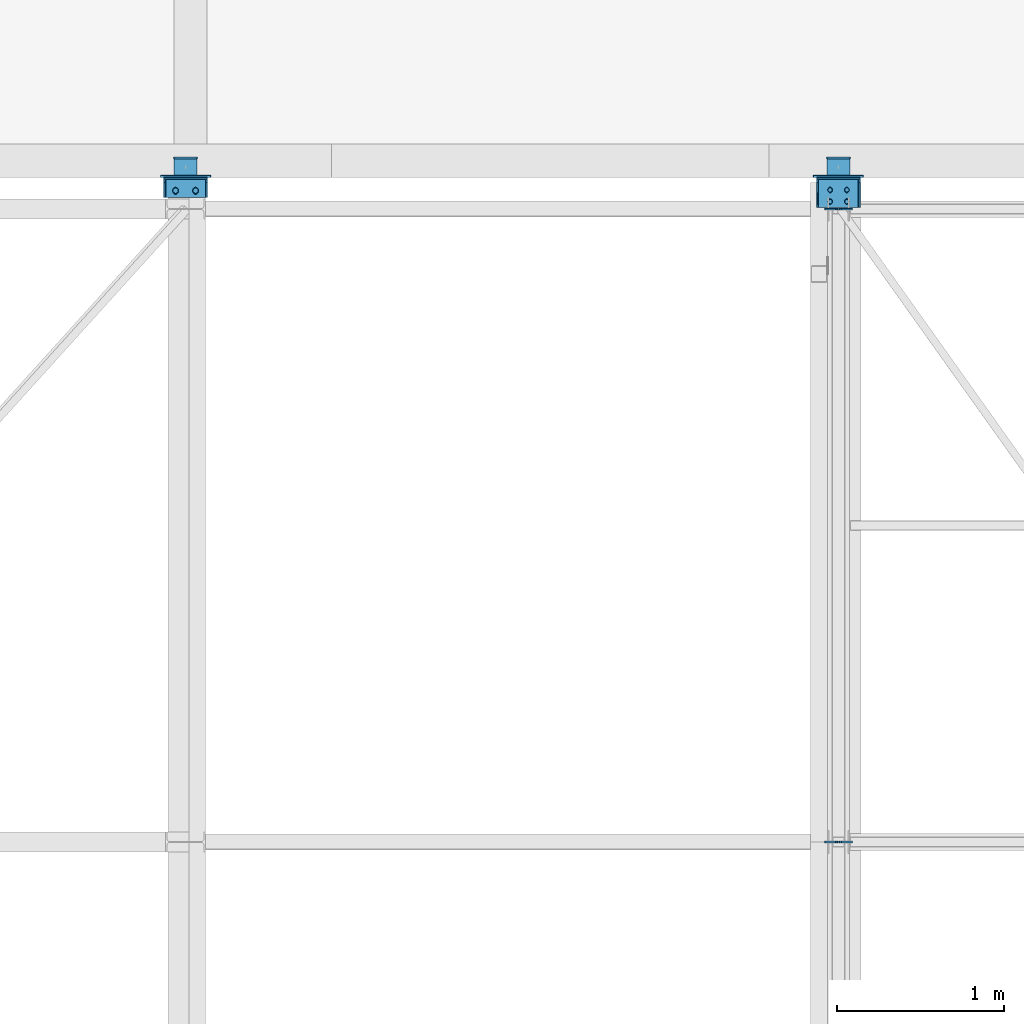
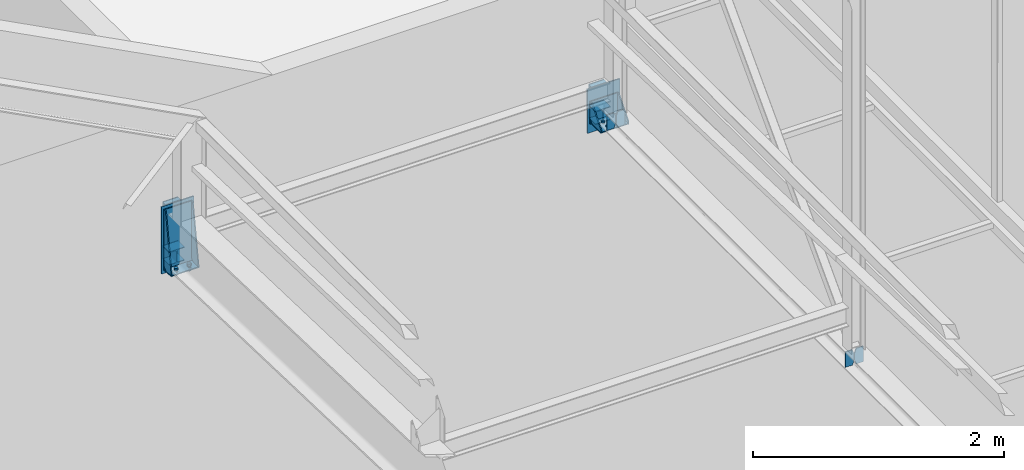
# One storey, part 83 of 123: 22 discrete accessories, 2 mechanical fasteners, 5 elements without a shape of their own.
"""IFC2X3 building model written with IfcOpenShell, lengths in millimetres."""

from ifc_helpers import new_model, si_unit, frame, frame_2d, origin_with_axes, origin_2d_with_axis, place, context, subcontext, project, spatial, polyline, circle_curve, parameter, trimmed, segment, composite_curve, circle, i_section, outline, extrude, source, transform, mapped, material, type_object, element, aggregate, save


model = new_model("IFC2X3")

# Units and contexts
model_context = context("Model", 3, precision=1e-05, world=origin_with_axes())
body_context = subcontext(model_context, "Body", "Model", "MODEL_VIEW")
ifc_project = project(units=[si_unit("LENGTHUNIT", "METRE", prefix="MILLI"), si_unit("AREAUNIT", "SQUARE_METRE"), si_unit("VOLUMEUNIT", "CUBIC_METRE"), si_unit("MASSUNIT", "GRAM", prefix="KILO"), si_unit("TIMEUNIT", "SECOND"), si_unit("PLANEANGLEUNIT", "RADIAN"), si_unit("SOLIDANGLEUNIT", "STERADIAN"), si_unit("THERMODYNAMICTEMPERATUREUNIT", "DEGREE_CELSIUS"), si_unit("LUMINOUSINTENSITYUNIT", "LUMEN")], contexts=[model_context])

# Site, building, storey
site_placement = place(None, origin_with_axes())
site = spatial("IfcSite", under=ifc_project, at=site_placement, Name="Undefined", CompositionType="ELEMENT")
building_placement = place(site_placement, origin_with_axes())
building = spatial("IfcBuilding", under=site, at=building_placement, Name="Undefined", CompositionType="ELEMENT")
storey_placement = place(building_placement, origin_with_axes())
storey = spatial("IfcBuildingStorey", under=building, at=storey_placement, Name="Undefined", CompositionType="ELEMENT", Elevation=0.0)

# Assembly, discrete accessories
assembly_1_placement = place(storey_placement, origin_with_axes())
assembly_1 = element("IfcElementAssembly", 1, at=assembly_1_placement, inside=storey, Name="Steel Assembly", AssemblyPlace="NOTDEFINED", PredefinedType="RIGID_FRAME")
ifc_material_1 = material(Name="STEEL/S235-E24")
discrete_accessory_type_1 = type_object("IfcDiscreteAccessoryType", Name="RAIDISSEUR")
discrete_accessory_1_placement = place(assembly_1_placement, frame((23552.9999999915, 11400.0000000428, 7089.5), z_axis=(0.0, 1.0, 0.0), x_axis=(-1.0, 0.0, 0.0)))
discrete_accessory_1 = element("IfcDiscreteAccessory", 2, at=discrete_accessory_1_placement, type_object=discrete_accessory_type_1, material=ifc_material_1, Name="RAIDISSEUR", ObjectType="TOLE10*80", context=body_context, shape_type="SweptSolid", body=[
    extrude(outline(polyline([(0.0, 0.0), (65.0, 0.0), (80.0, 40.0), (80.0, 110.0), (65.0, 150.0), (0.0, 150.0), (0.0, 0.0)])), frame((0.0, 0.0, -5.0), z_axis=(0.0, 0.0, 1.0), x_axis=(1.0, 0.0, 0.0)), (0.0, 0.0, 1.0), 10.0),
])
discrete_accessory_2_placement = place(assembly_1_placement, frame((23466.9999999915, 11400.0000000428, 7089.5), z_axis=(0.0, 1.0, 0.0), x_axis=(-1.0, 0.0, 0.0)))
discrete_accessory_2 = element("IfcDiscreteAccessory", 3, at=discrete_accessory_2_placement, type_object=discrete_accessory_type_1, material=ifc_material_1, Name="RAIDISSEUR", ObjectType="TOLE10*80", context=body_context, shape_type="SweptSolid", body=[
    extrude(outline(polyline([(0.0, 40.0), (15.0, 0.0), (80.0, 0.0), (80.0, 150.0), (15.0, 150.0), (0.0, 110.0), (0.0, 40.0)])), frame((0.0, 0.0, -5.0), z_axis=(0.0, 0.0, 1.0), x_axis=(1.0, 0.0, 0.0)), (0.0, 0.0, 1.0), 10.0),
])
discrete_accessory_3_placement = place(assembly_1_placement, frame((23552.9999999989, 15200.0000000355, 7089.5), z_axis=(0.0, 1.0, 0.0), x_axis=(-1.0, 0.0, 0.0)))
discrete_accessory_3 = element("IfcDiscreteAccessory", 4, at=discrete_accessory_3_placement, type_object=discrete_accessory_type_1, material=ifc_material_1, Name="RAIDISSEUR", ObjectType="TOLE10*80", context=body_context, shape_type="SweptSolid", body=[
    extrude(outline(polyline([(0.0, 0.0), (65.0, 0.0), (80.0, 40.0), (80.0, 110.0), (65.0, 150.0), (0.0, 150.0), (0.0, 0.0)])), frame((0.0, 0.0, -5.0), z_axis=(0.0, 0.0, 1.0), x_axis=(1.0, 0.0, 0.0)), (0.0, 0.0, 1.0), 10.0),
])
discrete_accessory_4_placement = place(assembly_1_placement, frame((23466.9999999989, 15200.0000000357, 7089.5), z_axis=(0.0, 1.0, 0.0), x_axis=(-1.0, 0.0, 0.0)))
discrete_accessory_4 = element("IfcDiscreteAccessory", 5, at=discrete_accessory_4_placement, type_object=discrete_accessory_type_1, material=ifc_material_1, Name="RAIDISSEUR", ObjectType="TOLE10*80", context=body_context, shape_type="SweptSolid", body=[
    extrude(outline(polyline([(0.0, 40.0), (15.0, 0.0), (80.0, 0.0), (80.0, 150.0), (15.0, 150.0), (0.0, 110.0), (0.0, 40.0)])), frame((0.0, 0.0, -5.0), z_axis=(0.0, 0.0, 1.0), x_axis=(1.0, 0.0, 0.0)), (0.0, 0.0, 1.0), 10.0),
])
aggregate(assembly_1, [discrete_accessory_1, discrete_accessory_2, discrete_accessory_3, discrete_accessory_4])

assembly_2_placement = place(storey_placement, origin_with_axes())
assembly_2 = element("IfcElementAssembly", 6, at=assembly_2_placement, inside=storey, Name="Steel Assembly", AssemblyPlace="NOTDEFINED", PredefinedType="RIGID_FRAME")
discrete_accessory_5_placement = place(assembly_2_placement, frame((23344.9999999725, 15210.0000005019, 7079.00000068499), z_axis=(-1.0, 0.0, 0.0), x_axis=(0.0, 0.0, 1.0)))
discrete_accessory_5 = element("IfcDiscreteAccessory", 7, at=discrete_accessory_5_placement, type_object=discrete_accessory_type_1, material=ifc_material_1, Name="RAIDISSEUR", ObjectType="PL10*170", context=body_context, shape_type="SweptSolid", body=[
    extrude(outline(polyline([(0.0, 0.0), (19.999999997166, 0.0), (194.999206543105, 150.000000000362), (194.999145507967, 170.000000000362), (29.9999970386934, 170.00000000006), (-2.43872305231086e-06, 140.000000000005), (0.0, 0.0)])), frame((0.0, 0.0, -5.0), z_axis=(0.0, 0.0, 1.0), x_axis=(1.0, 0.0, 0.0)), (0.0, 0.0, 1.0), 10.0),
])
discrete_accessory_6_placement = place(assembly_2_placement, frame((23594.9999999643, 15210.000000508, 7079.000000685), z_axis=(-1.0, 0.0, 0.0), x_axis=(0.0, 0.0, 1.0)))
discrete_accessory_6 = element("IfcDiscreteAccessory", 8, at=discrete_accessory_6_placement, type_object=discrete_accessory_type_1, material=ifc_material_1, Name="RAIDISSEUR", ObjectType="PL10*170", context=body_context, shape_type="SweptSolid", body=[
    extrude(outline(polyline([(0.0, 0.0), (19.999999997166, 0.0), (194.999206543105, 150.000000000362), (194.999145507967, 170.000000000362), (29.9999970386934, 170.00000000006), (-2.43872305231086e-06, 140.000000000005), (0.0, 0.0)])), frame((0.0, 0.0, -5.0), z_axis=(0.0, 0.0, 1.0), x_axis=(1.0, 0.0, 0.0)), (0.0, 0.0, 1.0), 10.0),
])

assembly_3_placement = place(storey_placement, origin_with_axes())
assembly_3 = element("IfcElementAssembly", 9, at=assembly_3_placement, inside=storey, Name="Steel Assembly", AssemblyPlace="NOTDEFINED", PredefinedType="RIGID_FRAME")
discrete_accessory_7_placement = place(assembly_3_placement, frame((19425.0000000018, 15270.042093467, 7019.84807001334), z_axis=(-1.0, 0.0, 0.0), x_axis=(0.0, 0.0314107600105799, 0.999506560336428)))
discrete_accessory_7 = element("IfcDiscreteAccessory", 10, at=discrete_accessory_7_placement, type_object=discrete_accessory_type_1, material=ifc_material_1, Name="RAIDISSEUR", ObjectType="PL10*110", context=body_context, shape_type="SweptSolid", body=[
    extrude(outline(polyline([(0.0, 0.0), (19.999999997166, 0.0), (576.501708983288, 71.8850250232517), (577.129882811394, 91.8751525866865), (29.9851968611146, 109.069868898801), (3.87804813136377e-08, 80.012191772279), (0.0, 0.0)])), frame((0.0, 0.0, -5.0), z_axis=(0.0, 0.0, 1.0), x_axis=(1.0, 0.0, 0.0)), (0.0, 0.0, 1.0), 10.0),
])
discrete_accessory_8_placement = place(assembly_3_placement, frame((19674.9999999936, 15270.042093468, 7019.84807001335), z_axis=(-1.0, 0.0, 0.0), x_axis=(0.0, 0.0314107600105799, 0.999506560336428)))
discrete_accessory_8 = element("IfcDiscreteAccessory", 11, at=discrete_accessory_8_placement, type_object=discrete_accessory_type_1, material=ifc_material_1, Name="RAIDISSEUR", ObjectType="PL10*110", context=body_context, shape_type="SweptSolid", body=[
    extrude(outline(polyline([(0.0, 0.0), (19.999999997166, 0.0), (576.501708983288, 71.8850250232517), (577.129882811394, 91.8751525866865), (29.9851968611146, 109.069868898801), (3.87804813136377e-08, 80.012191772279), (0.0, 0.0)])), frame((0.0, 0.0, -5.0), z_axis=(0.0, 0.0, 1.0), x_axis=(1.0, 0.0, 0.0)), (0.0, 0.0, 1.0), 10.0),
])

# Discrete accessory
discrete_accessory_type_2 = type_object("IfcDiscreteAccessoryType", Name="SABOT")
discrete_accessory_9_placement = place(assembly_2_placement, frame((23469.999999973, 15380.0000001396, 7074.00000068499), z_axis=(0.0, 0.0, -1.0), x_axis=(0.0, -1.0, 0.0)))
discrete_accessory_9 = element("IfcDiscreteAccessory", 12, at=discrete_accessory_9_placement, type_object=discrete_accessory_type_2, material=ifc_material_1, Name="SABOT", ObjectType="PL10*260", context=body_context, shape_type="SweptSolid", body=[
    extrude(outline(polyline([(169.99999962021, 130.0), (169.99999962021, -130.0), (0.0, -130.0), (0.0, 130.0), (169.99999962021, 130.0)])), frame((0.0, 0.0, -5.0), z_axis=(0.0, 0.0, 1.0), x_axis=(1.0, 0.0, 0.0)), (0.0, 0.0, 1.0), 10.0),
])

discrete_accessory_10_placement = place(assembly_2_placement, frame((23469.9999999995, 15384.9999999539, 7273.9991406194), z_axis=(0.0, 1.0, 0.0), x_axis=(0.0, 0.0, -1.0)))
discrete_accessory_10 = element("IfcDiscreteAccessory", 13, at=discrete_accessory_10_placement, type_object=discrete_accessory_type_2, material=ifc_material_1, Name="SABOT", ObjectType="PL10*260", context=body_context, shape_type="SweptSolid", body=[
    extrude(outline(polyline([(220.000836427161, 130.0), (220.000836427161, -130.0), (0.0, -130.0), (0.0, 130.0), (220.000836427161, 130.0)])), frame((0.0, 0.0, -5.0), z_axis=(0.0, 0.0, 1.0), x_axis=(1.0, 0.0, 0.0)), (0.0, 0.0, 1.0), 10.0),
])

discrete_accessory_11_placement = place(assembly_3_placement, frame((19549.9999999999, 15379.8429462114, 7011.39497068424), z_axis=(0.0, -0.0314107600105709, -0.999506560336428), x_axis=(0.0, -0.999506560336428, 0.0314107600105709)))
discrete_accessory_11 = element("IfcDiscreteAccessory", 14, at=discrete_accessory_11_placement, type_object=discrete_accessory_type_2, material=ifc_material_1, Name="SABOT", ObjectType="PL10*260", context=body_context, shape_type="SweptSolid", body=[
    extrude(outline(polyline([(110.012190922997, 130.0), (110.012190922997, -130.0), (0.0, -130.0), (0.0, 130.0), (110.012190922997, 130.0)])), frame((0.0, 0.0, -5.0), z_axis=(0.0, 0.0, 1.0), x_axis=(1.0, 0.0, 0.0)), (0.0, 0.0, 1.0), 10.0),
])

discrete_accessory_12_placement = place(assembly_3_placement, frame((19550.0000000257, 15385.0000000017, 7594.99732627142), z_axis=(0.0, 1.0, 0.0), x_axis=(0.0, 0.0, -1.0)))
discrete_accessory_12 = element("IfcDiscreteAccessory", 15, at=discrete_accessory_12_placement, type_object=discrete_accessory_type_2, material=ifc_material_1, Name="SABOT", ObjectType="PL10*260", context=body_context, shape_type="SweptSolid", body=[
    extrude(outline(polyline([(594.999999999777, 130.0), (594.999999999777, -130.0), (0.0, -130.0), (0.0, 130.0), (594.999999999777, 130.0)])), frame((0.0, 0.0, -5.0), z_axis=(0.0, 0.0, 1.0), x_axis=(1.0, 0.0, 0.0)), (0.0, 0.0, 1.0), 10.0),
])

# Assembly, discrete accessories
assembly_4_placement = place(storey_placement, origin_with_axes())
assembly_4 = element("IfcElementAssembly", 16, at=assembly_4_placement, inside=storey, Name="Steel Assembly", AssemblyPlace="NOTDEFINED", PredefinedType="RIGID_FRAME")
discrete_accessory_type_3 = type_object("IfcDiscreteAccessoryType", Name="PLAT")
discrete_accessory_13_placement = place(assembly_4_placement, frame((23470.0000000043, 15506.9999999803, 7146.49830350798), z_axis=(0.0, 1.0, 0.0), x_axis=(0.0, 0.0, -1.0)))
discrete_accessory_13 = element("IfcDiscreteAccessory", 17, at=discrete_accessory_13_placement, type_object=discrete_accessory_type_3, material=ifc_material_1, Name="PLAT", ObjectType="PL10*140", context=body_context, shape_type="SweptSolid", body=[
    extrude(outline(polyline([(132.999999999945, 70.0), (132.999999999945, -70.0), (0.0, -70.0), (0.0, 70.0), (132.999999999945, 70.0)])), frame((0.0, 0.0, -5.0), z_axis=(0.0, 0.0, 1.0), x_axis=(1.0, 0.0, 0.0)), (0.0, 0.0, 1.0), 10.0),
])
discrete_accessory_14_placement = place(assembly_4_placement, frame((23470.0000000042, 15506.9999999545, 7346.49830350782), z_axis=(0.0, 1.0, 0.0), x_axis=(0.0, 0.0, -1.0)))
discrete_accessory_14 = element("IfcDiscreteAccessory", 18, at=discrete_accessory_14_placement, type_object=discrete_accessory_type_3, material=ifc_material_1, Name="PLAT", ObjectType="PL10*140", context=body_context, shape_type="SweptSolid", body=[
    extrude(outline(polyline([(132.999999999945, 70.0), (132.999999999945, -70.0), (0.0, -70.0), (0.0, 70.0), (132.999999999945, 70.0)])), frame((0.0, 0.0, -5.0), z_axis=(0.0, 0.0, 1.0), x_axis=(1.0, 0.0, 0.0)), (0.0, 0.0, 1.0), 10.0),
])

assembly_5_placement = place(storey_placement, origin_with_axes())
assembly_5 = element("IfcElementAssembly", 19, at=assembly_5_placement, inside=storey, Name="Steel Assembly", AssemblyPlace="NOTDEFINED", PredefinedType="RIGID_FRAME")
discrete_accessory_15_placement = place(assembly_5_placement, frame((19550.0000000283, 15507.0000000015, 7151.49732627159), z_axis=(0.0, 1.0, 0.0), x_axis=(0.0, 0.0, -1.0)))
discrete_accessory_15 = element("IfcDiscreteAccessory", 20, at=discrete_accessory_15_placement, type_object=discrete_accessory_type_3, material=ifc_material_1, Name="PLAT", ObjectType="PL10*140", context=body_context, shape_type="SweptSolid", body=[
    extrude(outline(polyline([(132.999999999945, 70.0), (132.999999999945, -70.0), (0.0, -70.0), (0.0, 70.0), (132.999999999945, 70.0)])), frame((0.0, 0.0, -5.0), z_axis=(0.0, 0.0, 1.0), x_axis=(1.0, 0.0, 0.0)), (0.0, 0.0, 1.0), 10.0),
])
discrete_accessory_16_placement = place(assembly_5_placement, frame((19550.0000000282, 15507.0000000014, 7576.49732627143), z_axis=(0.0, 1.0, 0.0), x_axis=(0.0, 0.0, -1.0)))
discrete_accessory_16 = element("IfcDiscreteAccessory", 21, at=discrete_accessory_16_placement, type_object=discrete_accessory_type_3, material=ifc_material_1, Name="PLAT", ObjectType="PL10*140", context=body_context, shape_type="SweptSolid", body=[
    extrude(outline(polyline([(132.999999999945, 70.0), (132.999999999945, -70.0), (0.0, -70.0), (0.0, 70.0), (132.999999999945, 70.0)])), frame((0.0, 0.0, -5.0), z_axis=(0.0, 0.0, 1.0), x_axis=(1.0, 0.0, 0.0)), (0.0, 0.0, 1.0), 10.0),
])

# Discrete accessory
ifc_material_2 = material(Name="STEEL/S275-E28")
discrete_accessory_type_4 = type_object("IfcDiscreteAccessoryType", Name="BECHE")
discrete_accessory_17_placement = place(assembly_4_placement, frame((23470.0000000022, 15401.9999999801, 7079.99830350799), z_axis=(0.0, 0.0, 1.0), x_axis=(0.0, 1.0, 0.0)))
discrete_accessory_17 = element("IfcDiscreteAccessory", 22, at=discrete_accessory_17_placement, type_object=discrete_accessory_type_4, material=ifc_material_2, Name="BECHE", ObjectType="HEA140", context=body_context, shape_type="SweptSolid", body=[
    extrude(i_section(OverallWidth=140.0, OverallDepth=133.0, WebThickness=5.5, FlangeThickness=8.5, FilletRadius=12.0, at=origin_2d_with_axis()), frame((99.9999999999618, 0.0, 0.0), z_axis=(-1.0, 0.0, 0.0), x_axis=(0.0, -1.0, 0.0)), (0.0, 0.0, 1.0), 100.0),
])

discrete_accessory_18_placement = place(assembly_4_placement, frame((23470.0000000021, 15401.9999999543, 7279.99830350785), z_axis=(0.0, 0.0, 1.0), x_axis=(0.0, 1.0, 0.0)))
discrete_accessory_18 = element("IfcDiscreteAccessory", 23, at=discrete_accessory_18_placement, type_object=discrete_accessory_type_4, material=ifc_material_2, Name="BECHE", ObjectType="HEA140", context=body_context, shape_type="SweptSolid", body=[
    extrude(i_section(OverallWidth=140.0, OverallDepth=133.0, WebThickness=5.5, FlangeThickness=8.5, FilletRadius=12.0, at=origin_2d_with_axis()), frame((99.9999999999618, 0.0, 0.0), z_axis=(-1.0, 0.0, 0.0), x_axis=(0.0, -1.0, 0.0)), (0.0, 0.0, 1.0), 100.0),
])

discrete_accessory_19_placement = place(assembly_5_placement, frame((19550.0000000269, 15402.0000000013, 7084.99732627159), z_axis=(0.0, 0.0, 1.0), x_axis=(0.0, 1.0, 0.0)))
discrete_accessory_19 = element("IfcDiscreteAccessory", 24, at=discrete_accessory_19_placement, type_object=discrete_accessory_type_4, material=ifc_material_2, Name="BECHE", ObjectType="HEA140", context=body_context, shape_type="SweptSolid", body=[
    extrude(i_section(OverallWidth=140.0, OverallDepth=133.0, WebThickness=5.5, FlangeThickness=8.5, FilletRadius=12.0, at=origin_2d_with_axis()), frame((99.9999999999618, 0.0, 0.0), z_axis=(-1.0, 0.0, 0.0), x_axis=(0.0, -1.0, 0.0)), (0.0, 0.0, 1.0), 100.0),
])

discrete_accessory_20_placement = place(assembly_5_placement, frame((19550.000000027, 15402.0000000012, 7509.99732627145), z_axis=(0.0, 0.0, 1.0), x_axis=(0.0, 1.0, 0.0)))
discrete_accessory_20 = element("IfcDiscreteAccessory", 25, at=discrete_accessory_20_placement, type_object=discrete_accessory_type_4, material=ifc_material_2, Name="BECHE", ObjectType="HEA140", context=body_context, shape_type="SweptSolid", body=[
    extrude(i_section(OverallWidth=140.0, OverallDepth=133.0, WebThickness=5.5, FlangeThickness=8.5, FilletRadius=12.0, at=origin_2d_with_axis()), frame((99.9999999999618, 0.0, 0.0), z_axis=(-1.0, 0.0, 0.0), x_axis=(0.0, -1.0, 0.0)), (0.0, 0.0, 1.0), 100.0),
])

discrete_accessory_type_5 = type_object("IfcDiscreteAccessoryType", Name="PRESCELLEMENT")
discrete_accessory_21_placement = place(assembly_4_placement, frame((23470.0000000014, 15395.9999998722, 7394.99830350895), z_axis=(0.0, 1.0, 0.0), x_axis=(0.0, 0.0, -1.0)))
discrete_accessory_21 = element("IfcDiscreteAccessory", 26, at=discrete_accessory_21_placement, type_object=discrete_accessory_type_5, material=ifc_material_1, Name="PRESCELLEMENT", ObjectType="PL12*300", context=body_context, shape_type="SweptSolid", body=[
    extrude(outline(polyline([(429.999999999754, 150.0), (429.999999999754, -150.0), (0.0, -150.0), (0.0, 150.0), (429.999999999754, 150.0)])), frame((0.0, 0.0, -6.0), z_axis=(0.0, 0.0, 1.0), x_axis=(1.0, 0.0, 0.0)), (0.0, 0.0, 1.0), 12.0),
])

aggregate(assembly_4, [discrete_accessory_13, discrete_accessory_17, discrete_accessory_14, discrete_accessory_18, discrete_accessory_21])

discrete_accessory_22_placement = place(assembly_5_placement, frame((19550.000000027, 15396.0000000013, 7624.99732627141), z_axis=(0.0, 1.0, 0.0), x_axis=(0.0, 0.0, -1.0)))
discrete_accessory_22 = element("IfcDiscreteAccessory", 27, at=discrete_accessory_22_placement, type_object=discrete_accessory_type_5, material=ifc_material_1, Name="PRESCELLEMENT", ObjectType="PL12*300", context=body_context, shape_type="SweptSolid", body=[
    extrude(outline(polyline([(654.999999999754, 150.0), (654.999999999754, -150.0), (0.0, -150.0), (0.0, 150.0), (654.999999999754, 150.0)])), frame((0.0, 0.0, -6.0), z_axis=(0.0, 0.0, 1.0), x_axis=(1.0, 0.0, 0.0)), (0.0, 0.0, 1.0), 12.0),
])

aggregate(assembly_5, [discrete_accessory_15, discrete_accessory_19, discrete_accessory_16, discrete_accessory_20, discrete_accessory_22])

# Mechanical fastener
ifc_material_3 = material(Name="HR10.9")
discrete_accessory_type_6 = type_object("IfcDiscreteAccessoryType", Name="Bolt assembly")
shared_shape_1 = source(origin_with_axes(), body_context, "Body", "SweptSolid", [
    extrude(circle(Radius=9.0, at=origin_2d_with_axis()), frame((0.0, -9.40000077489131, 0.0), z_axis=(0.0, 1.0, 0.0), x_axis=(1.0, 0.0, 0.0)), (0.0, 0.0, 1.0), 9.5),
    extrude(outline(composite_curve([segment(polyline([(-9.0, 9.0), (9.0, 9.0)]), True, "CONTINUOUS"), segment(trimmed(circle_curve(frame_2d((9.0, 0.0), x_axis=(0.0, 1.0)), 9.0), [parameter(0.0)], [parameter(3.14159265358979)], False, "PARAMETER"), True, "CONTINUOUS"), segment(polyline([(9.0, -9.0), (-9.0, -9.0)]), True, "CONTINUOUS"), segment(trimmed(circle_curve(frame_2d((-9.0, 0.0), x_axis=(0.0, -1.0)), 9.0), [parameter(0.0)], [parameter(3.14159265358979)], False, "PARAMETER"), True, "DISCONTINUOUS")], self_intersect=False)), frame((0.0, -0.100000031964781, 0.0), z_axis=(0.0, 1.0, 0.0), x_axis=(1.0, 0.0, 0.0)), (0.0, 0.0, 1.0), 10.1),
    extrude(outline(polyline([(13.85640646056, 0.0), (6.92820323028, 12.0000000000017), (-6.92820323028, 12.0000000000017), (-13.85640646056, 0.0), (-6.92820323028, -12.0000000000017), (6.92820323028, -12.0000000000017), (13.85640646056, 0.0)])), frame((0.0, -23.5000007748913, 0.0), z_axis=(0.0, 1.0, 0.0), x_axis=(1.0, 0.0, 0.0)), (0.0, 0.0, 1.0), 10.0),
    extrude(circle(Radius=8.0, at=origin_2d_with_axis()), frame((0.0, -13.5000007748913, 0.0), z_axis=(0.0, 1.0, 0.0), x_axis=(1.0, 0.0, 0.0)), (0.0, 0.0, 1.0), 50.0),
    extrude(circle(Radius=15.0, at=origin_2d_with_axis()), frame((0.0, -13.5000007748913, 0.0), z_axis=(0.0, 1.0, 0.0), x_axis=(1.0, 0.0, 0.0)), (0.0, 0.0, 1.0), 4.0),
    extrude(circle(Radius=15.0, at=origin_2d_with_axis()), frame((0.0, 9.99999996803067, 0.0), z_axis=(0.0, 1.0, 0.0), x_axis=(1.0, 0.0, 0.0)), (0.0, 0.0, 1.0), 4.0),
    extrude(outline(polyline([(15.58845726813, 0.0), (7.794228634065, 13.5000000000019), (-7.794228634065, 13.5000000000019), (-15.58845726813, 0.0), (-7.794228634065, -13.5000000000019), (7.794228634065, -13.5000000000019), (15.58845726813, 0.0)])), frame((0.0, 13.9999999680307, 0.0), z_axis=(0.0, 1.0, 0.0), x_axis=(1.0, 0.0, 0.0)), (0.0, 0.0, 1.0), 15.0),
])
mechanical_fastener_1_placement = place(assembly_2_placement, frame((23469.9999999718, 15245.0000005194, 7078.99999922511), z_axis=(-1.0, 0.0, 0.0), x_axis=(0.0, 1.0, 0.0)))
mechanical_fastener_1 = element("IfcMechanicalFastener", 28, at=mechanical_fastener_1_placement, type_object=discrete_accessory_type_6, material=ifc_material_3, Name="Bolt assembly", NominalDiameter=16.0, NominalLength=50.0, context=body_context, shape_type="MappedRepresentation", body=[
    mapped(shared_shape_1, transform((0.0, 0.0, -50.0))),
    mapped(shared_shape_1, transform((70.0, 0.0, -50.0))),
    mapped(shared_shape_1, transform((0.0, 0.0, 50.0))),
    mapped(shared_shape_1, transform((70.0, 0.0, 50.0))),
])

aggregate(assembly_2, [mechanical_fastener_1, discrete_accessory_5, discrete_accessory_6, discrete_accessory_9, discrete_accessory_10])

shared_shape_2 = source(origin_with_axes(), body_context, "Body", "SweptSolid", [
    extrude(circle(Radius=11.0, at=origin_2d_with_axis()), frame((0.0, -17.1000007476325, 0.0), z_axis=(0.0, 1.0, 0.0), x_axis=(1.0, 0.0, 0.0)), (0.0, 0.0, 1.0), 17.2),
    extrude(outline(composite_curve([segment(polyline([(-11.0, 11.0), (11.0, 11.0)]), True, "CONTINUOUS"), segment(trimmed(circle_curve(frame_2d((11.0, 0.0), x_axis=(0.0, 1.0)), 11.0), [parameter(0.0)], [parameter(3.14159265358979)], False, "PARAMETER"), True, "CONTINUOUS"), segment(polyline([(11.0, -11.0), (-11.0, -11.0)]), True, "CONTINUOUS"), segment(trimmed(circle_curve(frame_2d((-11.0, 0.0), x_axis=(0.0, -1.0)), 11.0), [parameter(0.0)], [parameter(3.14159265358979)], False, "PARAMETER"), True, "DISCONTINUOUS")], self_intersect=False)), frame((0.0, -0.100000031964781, 0.0), z_axis=(0.0, 1.0, 0.0), x_axis=(1.0, 0.0, 0.0)), (0.0, 0.0, 1.0), 10.1),
    extrude(outline(polyline([(17.3205080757, 0.0), (8.66025403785, 15.0000000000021), (-8.66025403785, 15.0000000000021), (-17.3205080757, 0.0), (-8.66025403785, -15.0000000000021), (8.66025403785, -15.0000000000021), (17.3205080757, 0.0)])), frame((0.0, -34.2000007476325, 0.0), z_axis=(0.0, 1.0, 0.0), x_axis=(1.0, 0.0, 0.0)), (0.0, 0.0, 1.0), 13.0),
    extrude(circle(Radius=10.0, at=origin_2d_with_axis()), frame((0.0, -21.2000007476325, 0.0), z_axis=(0.0, 1.0, 0.0), x_axis=(1.0, 0.0, 0.0)), (0.0, 0.0, 1.0), 60.0),
    extrude(circle(Radius=18.5, at=origin_2d_with_axis()), frame((0.0, -21.2000007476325, 0.0), z_axis=(0.0, 1.0, 0.0), x_axis=(1.0, 0.0, 0.0)), (0.0, 0.0, 1.0), 4.0),
    extrude(circle(Radius=18.5, at=origin_2d_with_axis()), frame((0.0, 9.99999996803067, 0.0), z_axis=(0.0, 1.0, 0.0), x_axis=(1.0, 0.0, 0.0)), (0.0, 0.0, 1.0), 4.0),
    extrude(outline(polyline([(18.47520861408, 0.0), (9.23760430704, 16.0000000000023), (-9.23760430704, 16.0000000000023), (-18.47520861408, 0.0), (-9.23760430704, -16.0000000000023), (9.23760430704, -16.0000000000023), (18.47520861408, 0.0)])), frame((0.0, 13.9999999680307, 0.0), z_axis=(0.0, 1.0, 0.0), x_axis=(1.0, 0.0, 0.0)), (0.0, 0.0, 1.0), 18.0),
])
mechanical_fastener_2_placement = place(assembly_3_placement, frame((19549.9999999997, 15310.0223558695, 7018.59163958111), z_axis=(-1.0, 0.0, 0.0), x_axis=(0.0, 0.999506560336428, -0.0314107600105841)))
mechanical_fastener_2 = element("IfcMechanicalFastener", 29, at=mechanical_fastener_2_placement, type_object=discrete_accessory_type_6, material=ifc_material_3, Name="Bolt assembly", NominalDiameter=20.0, NominalLength=60.0, context=body_context, shape_type="MappedRepresentation", body=[
    mapped(shared_shape_2, transform((0.0, 0.0, -60.0))),
    mapped(shared_shape_2, transform((0.0, 0.0, 60.0))),
])

aggregate(assembly_3, [mechanical_fastener_2, discrete_accessory_7, discrete_accessory_8, discrete_accessory_11, discrete_accessory_12])

save(model, "model.ifc")
